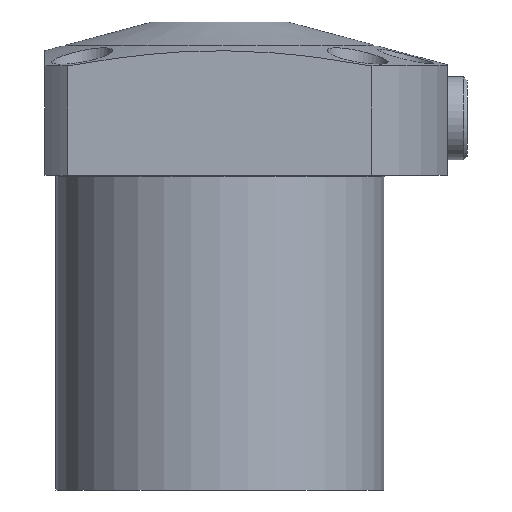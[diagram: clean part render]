
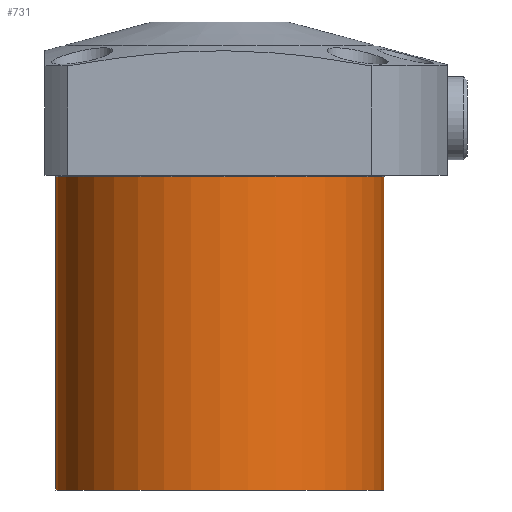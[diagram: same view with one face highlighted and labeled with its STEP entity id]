
A CAD part, front view. The second image highlights one B-rep face of the part: STEP entity #731.
In plain terms, the highlighted cylindrical face has radius 37.5 mm (diameter 75 mm), a partial arc.
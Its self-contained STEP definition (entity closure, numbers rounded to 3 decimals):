
#487=CYLINDRICAL_SURFACE('',#3019,37.5);
#731=ADVANCED_FACE('',(#916),#487,.T.);
#916=FACE_OUTER_BOUND('',#1082,.T.);
#1082=EDGE_LOOP('',(#1889,#1890,#1891,#1892));
#1196=LINE('',#4218,#1337);
#1197=LINE('',#4220,#1338);
#1337=VECTOR('',#3299,1.);
#1338=VECTOR('',#3302,1.);
#1889=ORIENTED_EDGE('',*,*,#2379,.F.);
#1890=ORIENTED_EDGE('',*,*,#2555,.T.);
#1891=ORIENTED_EDGE('',*,*,#2381,.T.);
#1892=ORIENTED_EDGE('',*,*,#2313,.T.);
#2101=VERTEX_POINT('',#3964);
#2102=VERTEX_POINT('',#3966);
#2164=VERTEX_POINT('',#4216);
#2165=VERTEX_POINT('',#4217);
#2313=EDGE_CURVE('',#2102,#2101,#2615,.T.);
#2379=EDGE_CURVE('',#2165,#2101,#1196,.T.);
#2381=EDGE_CURVE('',#2164,#2102,#1197,.T.);
#2555=EDGE_CURVE('',#2165,#2164,#2744,.T.);
#2615=CIRCLE('',#2799,37.5);
#2744=CIRCLE('',#3017,37.5);
#2799=AXIS2_PLACEMENT_3D('',#3965,#3178,#3179);
#3017=AXIS2_PLACEMENT_3D('',#4681,#3707,#3708);
#3019=AXIS2_PLACEMENT_3D('',#4683,#3711,#3712);
#3178=DIRECTION('',(0.,0.,-1.));
#3179=DIRECTION('',(1.,0.,0.));
#3299=DIRECTION('',(0.,0.,1.));
#3302=DIRECTION('',(0.,0.,1.));
#3707=DIRECTION('',(0.,0.,1.));
#3708=DIRECTION('',(1.,0.,0.));
#3711=DIRECTION('',(0.,0.,1.));
#3712=DIRECTION('',(-1.,0.,0.));
#3964=CARTESIAN_POINT('',(-37.5,0.,-0.4));
#3965=CARTESIAN_POINT('',(0.,0.,-0.4));
#3966=CARTESIAN_POINT('',(37.5,0.,-0.4));
#4216=CARTESIAN_POINT('',(37.5,0.,-72.));
#4217=CARTESIAN_POINT('',(-37.5,0.,-72.));
#4218=CARTESIAN_POINT('',(-37.5,0.,39.153));
#4220=CARTESIAN_POINT('',(37.5,0.,39.153));
#4681=CARTESIAN_POINT('',(0.,0.,-72.));
#4683=CARTESIAN_POINT('',(0.,0.,39.153));
